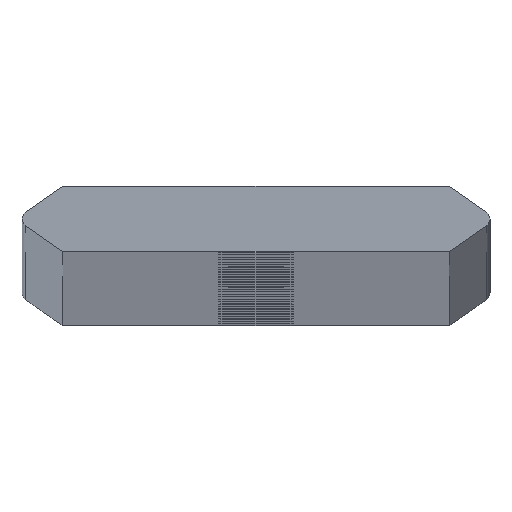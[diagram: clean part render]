
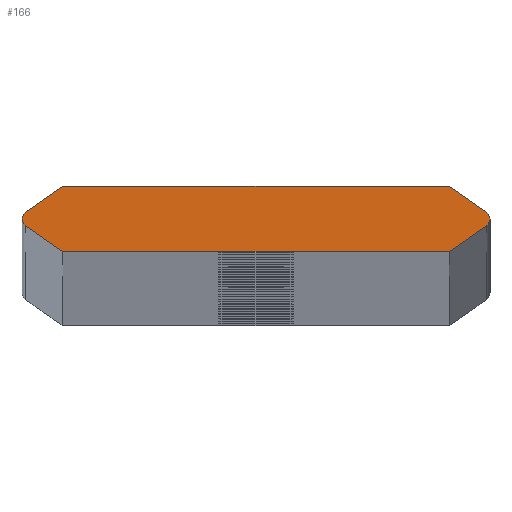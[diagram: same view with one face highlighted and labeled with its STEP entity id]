
A CAD part, top view. The second image highlights one B-rep face of the part: STEP entity #166.
In plain terms, the highlighted planar face has unit normal (0, 0, 1).
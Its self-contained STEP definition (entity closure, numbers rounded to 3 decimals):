
#166=ADVANCED_FACE('',(#358),#359,.T.);
#358=FACE_OUTER_BOUND('',#646,.T.);
#359=PLANE('',#647);
#646=EDGE_LOOP('',(#1389,#1390,#1391,#1392,#1393,#1394,#1395,#1396,#1397,#1398));
#647=AXIS2_PLACEMENT_3D('',#1399,#1400,#1401);
#1389=ORIENTED_EDGE('',*,*,#1645,.T.);
#1390=ORIENTED_EDGE('',*,*,#1914,.T.);
#1391=ORIENTED_EDGE('',*,*,#1915,.F.);
#1392=ORIENTED_EDGE('',*,*,#1916,.F.);
#1393=ORIENTED_EDGE('',*,*,#1917,.F.);
#1394=ORIENTED_EDGE('',*,*,#1641,.T.);
#1395=ORIENTED_EDGE('',*,*,#1918,.T.);
#1396=ORIENTED_EDGE('',*,*,#1919,.F.);
#1397=ORIENTED_EDGE('',*,*,#1920,.F.);
#1398=ORIENTED_EDGE('',*,*,#1921,.F.);
#1399=CARTESIAN_POINT('',(0.,0.,3956.0));
#1400=DIRECTION('',(0.0,0.0,1.0));
#1401=DIRECTION('',(1.0,0.0,0.0));
#1641=EDGE_CURVE('',#1937,#1934,#1938,.T.);
#1645=EDGE_CURVE('',#1945,#1942,#1946,.T.);
#1914=EDGE_CURVE('',#1942,#2392,#2394,.T.);
#1915=EDGE_CURVE('',#2395,#2392,#2396,.T.);
#1916=EDGE_CURVE('',#2397,#2395,#2398,.T.);
#1917=EDGE_CURVE('',#1937,#2397,#2399,.T.);
#1918=EDGE_CURVE('',#1934,#2400,#2401,.T.);
#1919=EDGE_CURVE('',#2402,#2400,#2403,.T.);
#1920=EDGE_CURVE('',#2404,#2402,#2405,.T.);
#1921=EDGE_CURVE('',#1945,#2404,#2406,.T.);
#1934=VERTEX_POINT('',#2424);
#1937=VERTEX_POINT('',#2428);
#1938=CIRCLE('',#2429,0.76);
#1942=VERTEX_POINT('',#2434);
#1945=VERTEX_POINT('',#2438);
#1946=CIRCLE('',#2439,0.76);
#2392=VERTEX_POINT('',#2974);
#2394=CIRCLE('',#2977,0.76);
#2395=VERTEX_POINT('',#2978);
#2396=LINE('',#2979,#2980);
#2397=VERTEX_POINT('',#2981);
#2398=LINE('',#2982,#2983);
#2399=LINE('',#2984,#2985);
#2400=VERTEX_POINT('',#2986);
#2401=CIRCLE('',#2987,0.76);
#2402=VERTEX_POINT('',#2988);
#2403=LINE('',#2989,#2990);
#2404=VERTEX_POINT('',#2991);
#2405=LINE('',#2992,#2993);
#2406=LINE('',#2994,#2995);
#2424=CARTESIAN_POINT('',(21.84,0.,3956.0));
#2428=CARTESIAN_POINT('',(21.519,-0.62,3956.0));
#2429=AXIS2_PLACEMENT_3D('',#3025,#3026,#3027);
#2434=CARTESIAN_POINT('',(-21.84,0.,3956.0));
#2438=CARTESIAN_POINT('',(-21.519,0.62,3956.0));
#2439=AXIS2_PLACEMENT_3D('',#3033,#3034,#3035);
#2974=CARTESIAN_POINT('',(-21.519,-0.62,3956.0));
#2977=AXIS2_PLACEMENT_3D('',#3660,#3661,#3662);
#2978=CARTESIAN_POINT('',(-18.049,-3.05,3956.0));
#2979=CARTESIAN_POINT('',(-22.405,0.,3956.0));
#2980=VECTOR('',#3663,1.0);
#2981=CARTESIAN_POINT('',(18.049,-3.05,3956.0));
#2982=CARTESIAN_POINT('',(18.049,-3.05,3956.0));
#2983=VECTOR('',#3664,1.0);
#2984=CARTESIAN_POINT('',(22.405,0.0,3956.0));
#2985=VECTOR('',#3665,1.0);
#2986=CARTESIAN_POINT('',(21.519,0.62,3956.0));
#2987=AXIS2_PLACEMENT_3D('',#3666,#3667,#3668);
#2988=CARTESIAN_POINT('',(18.049,3.05,3956.0));
#2989=CARTESIAN_POINT('',(22.405,0.0,3956.0));
#2990=VECTOR('',#3669,1.0);
#2991=CARTESIAN_POINT('',(-18.049,3.05,3956.0));
#2992=CARTESIAN_POINT('',(-18.049,3.05,3956.0));
#2993=VECTOR('',#3670,1.0);
#2994=CARTESIAN_POINT('',(-22.405,0.,3956.0));
#2995=VECTOR('',#3671,1.0);
#3025=CARTESIAN_POINT('',(21.08,0.0,3956.0));
#3026=DIRECTION('',(0.0,0.0,1.0));
#3027=DIRECTION('',(1.0,0.0,0.0));
#3033=CARTESIAN_POINT('',(-21.08,0.,3956.0));
#3034=DIRECTION('',(0.0,0.0,1.0));
#3035=DIRECTION('',(-1.0,0.,0.0));
#3660=CARTESIAN_POINT('',(-21.08,0.,3956.0));
#3661=DIRECTION('',(0.0,0.0,1.0));
#3662=DIRECTION('',(-1.0,0.,0.0));
#3663=DIRECTION('',(-0.819,0.574,0.0));
#3664=DIRECTION('',(-1.0,0.,0.0));
#3665=DIRECTION('',(-0.819,-0.574,0.0));
#3666=CARTESIAN_POINT('',(21.08,0.0,3956.0));
#3667=DIRECTION('',(0.0,0.0,1.0));
#3668=DIRECTION('',(1.0,0.0,0.0));
#3669=DIRECTION('',(0.819,-0.574,0.0));
#3670=DIRECTION('',(1.0,0.,0.0));
#3671=DIRECTION('',(0.819,0.574,0.0));
